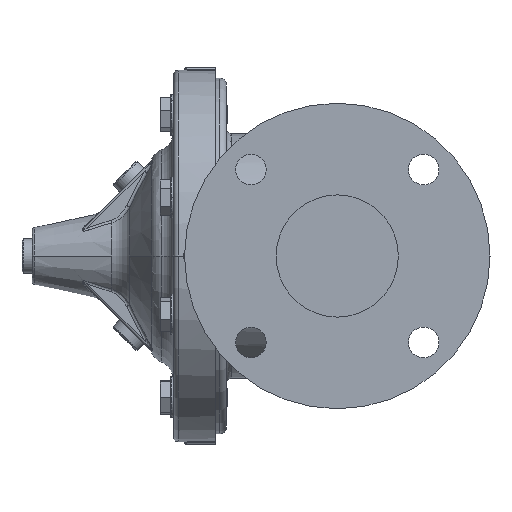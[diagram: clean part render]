
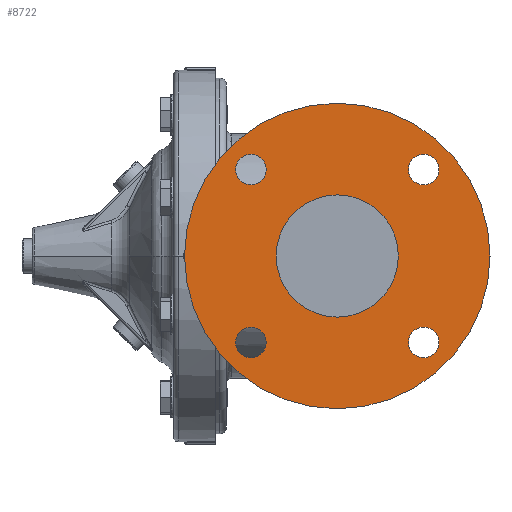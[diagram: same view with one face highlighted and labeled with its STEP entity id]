
A CAD part, left-side view. The second image highlights one B-rep face of the part: STEP entity #8722.
In plain terms, the highlighted planar face has unit normal (-1, 0, 0).
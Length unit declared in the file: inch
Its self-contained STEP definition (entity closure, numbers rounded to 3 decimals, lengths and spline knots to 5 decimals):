
#89 = DIRECTION ( 'NONE',  ( 0., 0., 1. ) ) ;
#295 = FACE_OUTER_BOUND ( 'NONE', #9945, .T. ) ;
#373 = CARTESIAN_POINT ( 'NONE',  ( -6., 0., -3.75 ) ) ;
#440 = EDGE_CURVE ( 'NONE', #5914, #22905, #9545, .T. ) ;
#935 = ORIENTED_EDGE ( 'NONE', *, *, #20979, .T. ) ;
#1530 = FACE_BOUND ( 'NONE', #18812, .T. ) ;
#1539 = DIRECTION ( 'NONE',  ( -1., 0., 0. ) ) ;
#1693 = CIRCLE ( 'NONE', #2297, 3.75 ) ;
#1760 = EDGE_CURVE ( 'NONE', #11486, #12745, #24136, .T. ) ;
#1900 = PLANE ( 'NONE',  #22391 ) ;
#2117 = CARTESIAN_POINT ( 'NONE',  ( -6., 0., 0. ) ) ;
#2163 = CIRCLE ( 'NONE', #12182, 0.375 ) ;
#2297 = AXIS2_PLACEMENT_3D ( 'NONE', #22966, #11280, #24919 ) ;
#2413 = ORIENTED_EDGE ( 'NONE', *, *, #440, .F. ) ;
#3014 = DIRECTION ( 'NONE',  ( -1., 0., 0. ) ) ;
#3191 = DIRECTION ( 'NONE',  ( -1., 0., 0. ) ) ;
#3865 = DIRECTION ( 'NONE',  ( 0., -1., 0. ) ) ;
#4100 = DIRECTION ( 'NONE',  ( 0., 0., 1. ) ) ;
#4266 = AXIS2_PLACEMENT_3D ( 'NONE', #13197, #1539, #15119 ) ;
#4367 = ORIENTED_EDGE ( 'NONE', *, *, #20744, .F. ) ;
#4555 = CARTESIAN_POINT ( 'NONE',  ( -6., 2.12132, -1.74632 ) ) ;
#5412 = AXIS2_PLACEMENT_3D ( 'NONE', #23078, #11410, #25047 ) ;
#5477 = FACE_BOUND ( 'NONE', #15211, .T. ) ;
#5668 = EDGE_CURVE ( 'NONE', #9853, #22838, #6654, .T. ) ;
#5914 = VERTEX_POINT ( 'NONE', #8660 ) ;
#5943 = CIRCLE ( 'NONE', #24137, 0.375 ) ;
#6072 = FACE_BOUND ( 'NONE', #9146, .T. ) ;
#6654 = CIRCLE ( 'NONE', #5412, 0.375 ) ;
#7718 = CARTESIAN_POINT ( 'NONE',  ( -6., -1.74632, -2.12132 ) ) ;
#7814 = AXIS2_PLACEMENT_3D ( 'NONE', #10725, #24366, #12699 ) ;
#8010 = CARTESIAN_POINT ( 'NONE',  ( -6., -2.12132, -2.12132 ) ) ;
#8303 = CARTESIAN_POINT ( 'NONE',  ( -6., -1.5, 0. ) ) ;
#8625 = CARTESIAN_POINT ( 'NONE',  ( -6., 0., 0. ) ) ;
#8660 = CARTESIAN_POINT ( 'NONE',  ( -6., 2.49632, 2.12132 ) ) ;
#8722 = ADVANCED_FACE ( 'NONE', ( #16409, #6072, #1530, #10604, #5477, #295 ), #1900, .T. ) ;
#9110 = ORIENTED_EDGE ( 'NONE', *, *, #17539, .F. ) ;
#9146 = EDGE_LOOP ( 'NONE', ( #19407, #13906 ) ) ;
#9419 = CARTESIAN_POINT ( 'NONE',  ( -6., -2.12132, 2.49632 ) ) ;
#9506 = EDGE_LOOP ( 'NONE', ( #9110, #12799 ) ) ;
#9545 = CIRCLE ( 'NONE', #18496, 0.375 ) ;
#9589 = DIRECTION ( 'NONE',  ( -1., 0., 0. ) ) ;
#9652 = CIRCLE ( 'NONE', #4266, 1.5 ) ;
#9853 = VERTEX_POINT ( 'NONE', #4555 ) ;
#9937 = DIRECTION ( 'NONE',  ( 0., 1., 0. ) ) ;
#9945 = EDGE_LOOP ( 'NONE', ( #935, #23340 ) ) ;
#10551 = DIRECTION ( 'NONE',  ( 0., -1., 0. ) ) ;
#10604 = FACE_BOUND ( 'NONE', #9506, .T. ) ;
#10725 = CARTESIAN_POINT ( 'NONE',  ( -6., -2.12132, 2.12132 ) ) ;
#10789 = CARTESIAN_POINT ( 'NONE',  ( -6., -2.12132, 2.12132 ) ) ;
#10830 = CIRCLE ( 'NONE', #22584, 0.375 ) ;
#11280 = DIRECTION ( 'NONE',  ( -1., 0., 0. ) ) ;
#11410 = DIRECTION ( 'NONE',  ( -1., 0., 0. ) ) ;
#11486 = VERTEX_POINT ( 'NONE', #20560 ) ;
#11717 = DIRECTION ( 'NONE',  ( -1., 0., 0. ) ) ;
#12182 = AXIS2_PLACEMENT_3D ( 'NONE', #8010, #21621, #9937 ) ;
#12699 = DIRECTION ( 'NONE',  ( 0., 0., -1. ) ) ;
#12745 = VERTEX_POINT ( 'NONE', #9419 ) ;
#12773 = DIRECTION ( 'NONE',  ( 0., 0., -1. ) ) ;
#12799 = ORIENTED_EDGE ( 'NONE', *, *, #13472, .F. ) ;
#13039 = VERTEX_POINT ( 'NONE', #8303 ) ;
#13197 = CARTESIAN_POINT ( 'NONE',  ( -6., 0., 0. ) ) ;
#13472 = EDGE_CURVE ( 'NONE', #19543, #13039, #21318, .T. ) ;
#13600 = AXIS2_PLACEMENT_3D ( 'NONE', #2117, #15703, #4100 ) ;
#13906 = ORIENTED_EDGE ( 'NONE', *, *, #14396, .F. ) ;
#13978 = VERTEX_POINT ( 'NONE', #23850 ) ;
#14396 = EDGE_CURVE ( 'NONE', #17679, #20022, #2163, .T. ) ;
#14659 = CARTESIAN_POINT ( 'NONE',  ( -6., 2.12132, 2.12132 ) ) ;
#14763 = CARTESIAN_POINT ( 'NONE',  ( -6., 2.12132, -2.49632 ) ) ;
#14822 = DIRECTION ( 'NONE',  ( 0., -1., 0. ) ) ;
#14988 = AXIS2_PLACEMENT_3D ( 'NONE', #10789, #24442, #12773 ) ;
#15084 = ORIENTED_EDGE ( 'NONE', *, *, #25216, .F. ) ;
#15119 = DIRECTION ( 'NONE',  ( 0., -1., 0. ) ) ;
#15211 = EDGE_LOOP ( 'NONE', ( #15084, #2413 ) ) ;
#15477 = DIRECTION ( 'NONE',  ( -1., 0., 0. ) ) ;
#15703 = DIRECTION ( 'NONE',  ( -1., 0., 0. ) ) ;
#16183 = CIRCLE ( 'NONE', #13600, 3.75 ) ;
#16409 = FACE_BOUND ( 'NONE', #24669, .T. ) ;
#16602 = DIRECTION ( 'NONE',  ( 0., -1., 0. ) ) ;
#16773 = CARTESIAN_POINT ( 'NONE',  ( -6., 2.12132, 2.12132 ) ) ;
#16900 = EDGE_CURVE ( 'NONE', #12745, #11486, #17612, .T. ) ;
#17539 = EDGE_CURVE ( 'NONE', #13039, #19543, #9652, .T. ) ;
#17612 = CIRCLE ( 'NONE', #7814, 0.375 ) ;
#17679 = VERTEX_POINT ( 'NONE', #7718 ) ;
#18074 = ORIENTED_EDGE ( 'NONE', *, *, #16900, .F. ) ;
#18266 = CARTESIAN_POINT ( 'NONE',  ( -6., -2.49632, -2.12132 ) ) ;
#18304 = AXIS2_PLACEMENT_3D ( 'NONE', #21253, #9589, #23237 ) ;
#18496 = AXIS2_PLACEMENT_3D ( 'NONE', #16773, #3191, #14822 ) ;
#18776 = CARTESIAN_POINT ( 'NONE',  ( -6., 1.74632, 2.12132 ) ) ;
#18812 = EDGE_LOOP ( 'NONE', ( #22132, #4367 ) ) ;
#19407 = ORIENTED_EDGE ( 'NONE', *, *, #21933, .F. ) ;
#19543 = VERTEX_POINT ( 'NONE', #24357 ) ;
#20022 = VERTEX_POINT ( 'NONE', #18266 ) ;
#20560 = CARTESIAN_POINT ( 'NONE',  ( -6., -2.12132, 1.74632 ) ) ;
#20744 = EDGE_CURVE ( 'NONE', #22838, #9853, #5943, .T. ) ;
#20979 = EDGE_CURVE ( 'NONE', #13978, #24986, #1693, .T. ) ;
#20998 = ORIENTED_EDGE ( 'NONE', *, *, #1760, .F. ) ;
#21253 = CARTESIAN_POINT ( 'NONE',  ( -6., -2.12132, -2.12132 ) ) ;
#21275 = CARTESIAN_POINT ( 'NONE',  ( -6., 0., 0. ) ) ;
#21318 = CIRCLE ( 'NONE', #21606, 1.5 ) ;
#21606 = AXIS2_PLACEMENT_3D ( 'NONE', #8625, #22235, #10551 ) ;
#21621 = DIRECTION ( 'NONE',  ( -1., 0., 0. ) ) ;
#21732 = CIRCLE ( 'NONE', #18304, 0.375 ) ;
#21933 = EDGE_CURVE ( 'NONE', #20022, #17679, #21732, .T. ) ;
#22132 = ORIENTED_EDGE ( 'NONE', *, *, #5668, .F. ) ;
#22235 = DIRECTION ( 'NONE',  ( -1., 0., 0. ) ) ;
#22391 = AXIS2_PLACEMENT_3D ( 'NONE', #21275, #15477, #3865 ) ;
#22584 = AXIS2_PLACEMENT_3D ( 'NONE', #14659, #3014, #16602 ) ;
#22838 = VERTEX_POINT ( 'NONE', #14763 ) ;
#22905 = VERTEX_POINT ( 'NONE', #18776 ) ;
#22966 = CARTESIAN_POINT ( 'NONE',  ( -6., 0., 0. ) ) ;
#23078 = CARTESIAN_POINT ( 'NONE',  ( -6., 2.12132, -2.12132 ) ) ;
#23237 = DIRECTION ( 'NONE',  ( 0., 1., 0. ) ) ;
#23340 = ORIENTED_EDGE ( 'NONE', *, *, #24199, .T. ) ;
#23382 = CARTESIAN_POINT ( 'NONE',  ( -6., 2.12132, -2.12132 ) ) ;
#23850 = CARTESIAN_POINT ( 'NONE',  ( -6., 0., 3.75 ) ) ;
#24136 = CIRCLE ( 'NONE', #14988, 0.375 ) ;
#24137 = AXIS2_PLACEMENT_3D ( 'NONE', #23382, #11717, #89 ) ;
#24199 = EDGE_CURVE ( 'NONE', #24986, #13978, #16183, .T. ) ;
#24357 = CARTESIAN_POINT ( 'NONE',  ( -6., 1.5, 0. ) ) ;
#24366 = DIRECTION ( 'NONE',  ( -1., 0., 0. ) ) ;
#24442 = DIRECTION ( 'NONE',  ( -1., 0., 0. ) ) ;
#24669 = EDGE_LOOP ( 'NONE', ( #18074, #20998 ) ) ;
#24919 = DIRECTION ( 'NONE',  ( 0., 0., 1. ) ) ;
#24986 = VERTEX_POINT ( 'NONE', #373 ) ;
#25047 = DIRECTION ( 'NONE',  ( 0., 0., 1. ) ) ;
#25216 = EDGE_CURVE ( 'NONE', #22905, #5914, #10830, .T. ) ;
